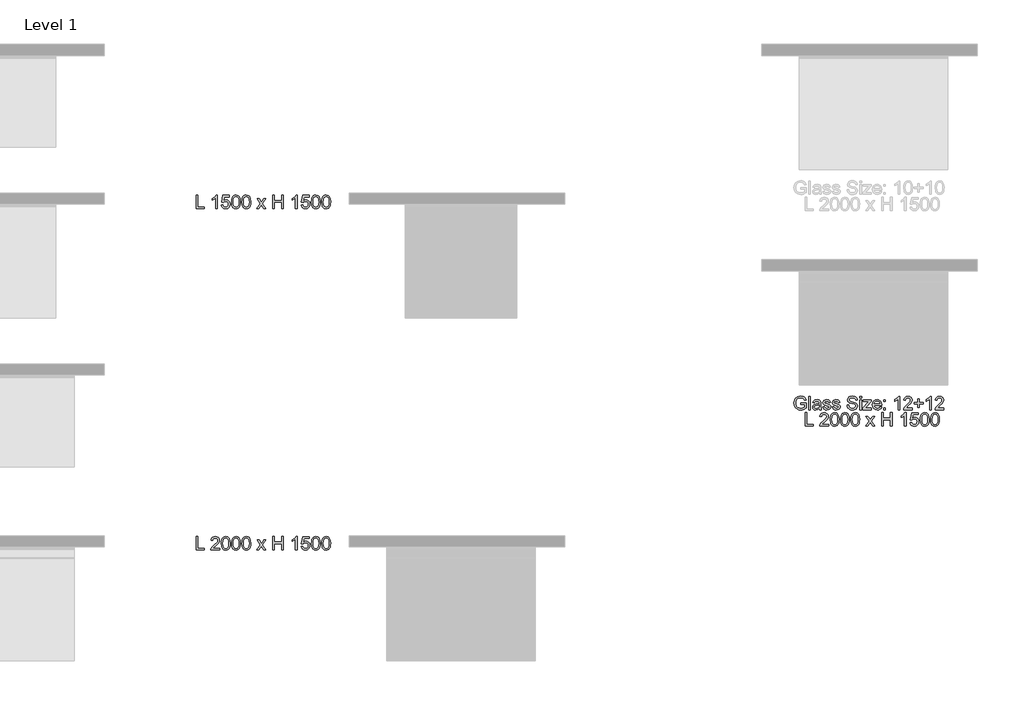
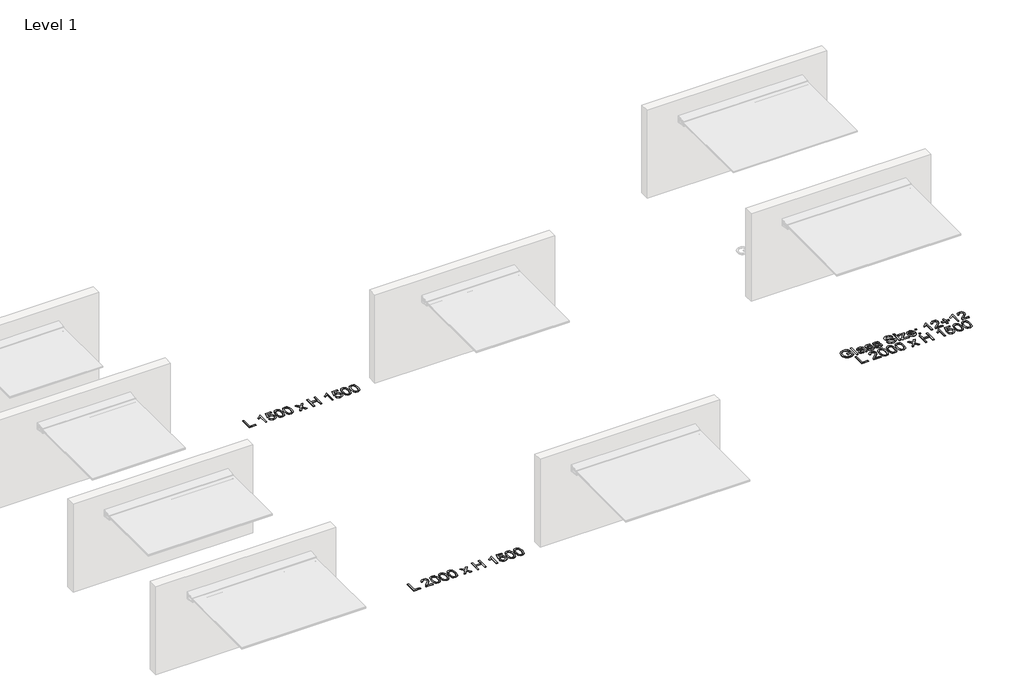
# One storey, part 2 of 7: 3 proxies.
"""IFC4 building model written with IfcOpenShell, lengths in millimetres."""

from ifc_helpers import new_model, si_unit, origin, origin_with_axes, place, context, project, spatial, polyline, outline, extrude, element, save

model = new_model("IFC4")

# Units and contexts
model_context = context("Model", 3, world=origin())
ifc_project = project(units=[si_unit("LENGTHUNIT", "METRE", prefix="MILLI")], contexts=[model_context])

# Site, building, storey
site = spatial("IfcSite", under=ifc_project)
building = spatial("IfcBuilding", under=site)
storey = spatial("IfcBuildingStorey", under=building, Name="Level 1", Elevation=0.0)

# Proxies
placement = place(None, origin())
element("IfcBuildingElementProxy", 1, Name="600mm Arial 3", ObjectType="600mm Arial 3", at=placement, inside=storey, context=model_context, shape_type="SweptSolid", body=[
    extrude(outline(polyline([(8472.1620309, -1499.2688788), (8472.1620309, -1318.4475205), (8494.7647007, -1318.4475205), (8494.7647007, -1476.666209), (8585.1753798, -1476.666209), (8585.1753798, -1499.2688788), (8472.1620309, -1499.2688788)])), origin_with_axes(), (0.0, 0.0, 1.0), 5.0),
    extrude(outline(polyline([(8757.5207369, -1499.2688788), (8734.9180672, -1499.2688788), (8734.9180672, -1358.3553594), (8713.507335, -1373.6077469), (8689.7127276, -1385.0194464), (8689.7127276, -1363.6528601), (8722.8441801, -1342.507003), (8742.9526099, -1318.4475205), (8757.5207369, -1318.4475205), (8757.5207369, -1499.2688788)])), origin_with_axes(), (0.0, 0.0, 1.0), 5.0),
    extrude(outline(polyline([(8811.2020777, -1451.2382055), (8833.8047475, -1448.4128718), (8837.9544564, -1461.9821992), (8845.194374, -1471.6998021), (8855.4913911, -1477.5436076), (8868.8123981, -1479.4915427), (8885.0139212, -1476.7820918), (8897.154027, -1468.6537392), (8904.7360749, -1456.0445838), (8907.2634243, -1439.8927248), (8904.8961036, -1424.6844831), (8897.7941417, -1413.0520544), (8885.9023562, -1405.6686628), (8869.1655648, -1403.2075322), (8849.32201, -1407.1365119), (8836.6300812, -1417.3342008), (8814.0274114, -1414.5088671), (8833.8047475, -1321.2728543), (8921.3900929, -1321.2728543), (8921.3900929, -1343.875524), (8852.081125, -1343.875524), (8842.3690403, -1393.6720309), (8858.5153811, -1383.8716546), (8875.434274, -1380.6048624), (8896.5580582, -1384.6552432), (8914.1060294, -1396.8063855), (8925.9260779, -1415.3255651), (8929.866094, -1438.4800579), (8926.3233904, -1461.0827277), (8915.6952796, -1480.4186054), (8895.3440476, -1496.6753107), (8868.7241064, -1502.0942125), (8846.5242674, -1498.6122094), (8828.8383405, -1488.1662002), (8816.7147894, -1471.9701953), (8811.2020777, -1451.2382055)])), origin_with_axes(), (0.0, 0.0, 1.0), 5.0),
    extrude(outline(polyline([(8949.6434301, -1410.3150124), (8951.3044173, -1381.3718964), (8956.2873789, -1358.2891406), (8964.5426509, -1340.7135783), (8976.0205692, -1328.2920427), (8990.8039071, -1320.9086511), (9008.9754383, -1318.4475205), (9035.3746503, -1324.2747713), (9045.8041048, -1331.3877697), (9053.6068819, -1341.0722632), (9064.2018834, -1367.8246419), (9068.3074465, -1410.3150124), (9066.6630139, -1439.0925814), (9061.7297164, -1462.1201549), (9053.5241085, -1479.7122719), (9042.0627449, -1492.1834716), (9027.2462976, -1499.6165273), (9008.9754383, -1502.0942125), (8985.4898517, -1497.7899932), (8967.6549326, -1484.8773351), (8959.7749002, -1471.2611028), (8954.1463057, -1454.2953049), (8949.6434301, -1410.3150124)]), holes=[polyline([(8972.2460999, -1410.2708665), (8974.8948502, -1445.824822), (8982.8411013, -1466.4023014), (8994.6721863, -1476.2192324), (9008.9754383, -1479.4915427), (9023.2786903, -1476.2081959), (9035.1097752, -1466.3581555), (9043.0560263, -1445.7696397), (9045.7047767, -1410.2708665), (9043.144318, -1375.5170544), (9035.4629419, -1354.7795464), (9023.6539299, -1344.4825293), (9008.7105632, -1341.0501903), (8994.5618217, -1344.0741803), (8983.1942681, -1353.1461503), (8974.9831419, -1375.1749242), (8972.2460999, -1410.2708665)])]), origin_with_axes(), (0.0, 0.0, 1.0), 5.0),
    extrude(outline(polyline([(9088.0847825, -1410.3150124), (9089.7457697, -1381.3718964), (9094.7287314, -1358.2891406), (9102.9840033, -1340.7135783), (9114.4619216, -1328.2920427), (9129.2452596, -1320.9086511), (9147.4167907, -1318.4475205), (9173.8160027, -1324.2747713), (9184.2454572, -1331.3877697), (9192.0482344, -1341.0722632), (9202.6432358, -1367.8246419), (9206.7487989, -1410.3150124), (9205.1043664, -1439.0925814), (9200.1710688, -1462.1201549), (9191.9654609, -1479.7122719), (9180.5040974, -1492.1834716), (9165.68765, -1499.6165273), (9147.4167907, -1502.0942125), (9123.9312041, -1497.7899932), (9106.096285, -1484.8773351), (9098.2162527, -1471.2611028), (9092.5876581, -1454.2953049), (9088.0847825, -1410.3150124)]), holes=[polyline([(9110.6874523, -1410.2708665), (9113.3362027, -1445.824822), (9121.2824538, -1466.4023014), (9133.1135387, -1476.2192324), (9147.4167907, -1479.4915427), (9161.7200427, -1476.2081959), (9173.5511276, -1466.3581555), (9181.4973787, -1445.7696397), (9184.1461291, -1410.2708665), (9181.5856704, -1375.5170544), (9173.9042944, -1354.7795464), (9162.0952823, -1344.4825293), (9147.1519157, -1341.0501903), (9133.0031741, -1344.0741803), (9121.6356205, -1353.1461503), (9113.4244944, -1375.1749242), (9110.6874523, -1410.2708665)])]), origin_with_axes(), (0.0, 0.0, 1.0), 5.0),
    extrude(outline(polyline([(9288.6834769, -1499.2688788), (9336.9790252, -1432.4762238), (9291.5088106, -1366.4781938), (9318.614356, -1366.4781938), (9340.5548382, -1398.307344), (9350.8408188, -1413.2727836), (9359.7582783, -1401.0002402), (9384.7448234, -1366.4781938), (9411.9386605, -1366.4781938), (9364.1728623, -1432.5203696), (9410.1728269, -1499.2688788), (9383.0231357, -1499.2688788), (9355.2995485, -1459.0961649), (9350.2669228, -1451.7238097), (9315.8773139, -1499.2688788), (9288.6834769, -1499.2688788)])), origin_with_axes(), (0.0, 0.0, 1.0), 5.0),
    extrude(outline(polyline([(9503.4088398, -1499.2688788), (9503.4088398, -1318.4475205), (9526.0115096, -1318.4475205), (9526.0115096, -1391.9061973), (9622.0728562, -1391.9061973), (9622.0728562, -1318.4475205), (9644.6755259, -1318.4475205), (9644.6755259, -1499.2688788), (9622.0728562, -1499.2688788), (9622.0728562, -1414.5088671), (9526.0115096, -1414.5088671), (9526.0115096, -1499.2688788), (9503.4088398, -1499.2688788)])), origin_with_axes(), (0.0, 0.0, 1.0), 5.0),
    extrude(outline(polyline([(9831.1475517, -1499.2688788), (9808.5448819, -1499.2688788), (9808.5448819, -1358.3553594), (9787.1341498, -1373.6077469), (9763.3395423, -1385.0194464), (9763.3395423, -1363.6528601), (9796.4709948, -1342.507003), (9816.5794247, -1318.4475205), (9831.1475517, -1318.4475205), (9831.1475517, -1499.2688788)])), origin_with_axes(), (0.0, 0.0, 1.0), 5.0),
    extrude(outline(polyline([(9884.8288924, -1451.2382055), (9907.4315622, -1448.4128718), (9911.5812711, -1461.9821992), (9918.8211888, -1471.6998021), (9929.1182058, -1477.5436076), (9942.4392128, -1479.4915427), (9958.6407359, -1476.7820918), (9970.7808418, -1468.6537392), (9978.3628897, -1456.0445838), (9980.890239, -1439.8927248), (9978.5229183, -1424.6844831), (9971.4209564, -1413.0520544), (9959.5291709, -1405.6686628), (9942.7923796, -1403.2075322), (9922.9488247, -1407.1365119), (9910.2568959, -1417.3342008), (9887.6542261, -1414.5088671), (9907.4315622, -1321.2728543), (9995.0169076, -1321.2728543), (9995.0169076, -1343.875524), (9925.7079397, -1343.875524), (9915.995855, -1393.6720309), (9932.1421958, -1383.8716546), (9949.0610888, -1380.6048624), (9970.1848729, -1384.6552432), (9987.7328441, -1396.8063855), (9999.5528926, -1415.3255651), (10003.4929088, -1438.4800579), (9999.9502051, -1461.0827277), (9989.3220943, -1480.4186054), (9968.9708623, -1496.6753107), (9942.3509212, -1502.0942125), (9920.1510822, -1498.6122094), (9902.4651552, -1488.1662002), (9890.3416041, -1471.9701953), (9884.8288924, -1451.2382055)])), origin_with_axes(), (0.0, 0.0, 1.0), 5.0),
    extrude(outline(polyline([(10023.2702448, -1410.3150124), (10024.931232, -1381.3718964), (10029.9141937, -1358.2891406), (10038.1694656, -1340.7135783), (10049.6473839, -1328.2920427), (10064.4307219, -1320.9086511), (10082.602253, -1318.4475205), (10109.001465, -1324.2747713), (10119.4309195, -1331.3877697), (10127.2336967, -1341.0722632), (10137.8286981, -1367.8246419), (10141.9342612, -1410.3150124), (10140.2898287, -1439.0925814), (10135.3565311, -1462.1201549), (10127.1509232, -1479.7122719), (10115.6895597, -1492.1834716), (10100.8731123, -1499.6165273), (10082.602253, -1502.0942125), (10059.1166664, -1497.7899932), (10041.2817473, -1484.8773351), (10033.401715, -1471.2611028), (10027.7731204, -1454.2953049), (10023.2702448, -1410.3150124)]), holes=[polyline([(10045.8729146, -1410.2708665), (10048.521665, -1445.824822), (10056.4679161, -1466.4023014), (10068.299001, -1476.2192324), (10082.602253, -1479.4915427), (10096.905505, -1476.2081959), (10108.7365899, -1466.3581555), (10116.682841, -1445.7696397), (10119.3315914, -1410.2708665), (10116.7711327, -1375.5170544), (10109.0897567, -1354.7795464), (10097.2807446, -1344.4825293), (10082.337378, -1341.0501903), (10068.1886364, -1344.0741803), (10056.8210828, -1353.1461503), (10048.6099567, -1375.1749242), (10045.8729146, -1410.2708665)])]), origin_with_axes(), (0.0, 0.0, 1.0), 5.0),
    extrude(outline(polyline([(10161.7115972, -1410.3150124), (10163.3725845, -1381.3718964), (10168.3555461, -1358.2891406), (10176.6108181, -1340.7135783), (10188.0887363, -1328.2920427), (10202.8720743, -1320.9086511), (10221.0436054, -1318.4475205), (10247.4428174, -1324.2747713), (10257.872272, -1331.3877697), (10265.6750491, -1341.0722632), (10276.2700505, -1367.8246419), (10280.3756136, -1410.3150124), (10278.7311811, -1439.0925814), (10273.7978835, -1462.1201549), (10265.5922756, -1479.7122719), (10254.1309121, -1492.1834716), (10239.3144647, -1499.6165273), (10221.0436054, -1502.0942125), (10197.5580189, -1497.7899932), (10179.7230997, -1484.8773351), (10171.8430674, -1471.2611028), (10166.2144729, -1454.2953049), (10161.7115972, -1410.3150124)]), holes=[polyline([(10184.314267, -1410.2708665), (10186.9630174, -1445.824822), (10194.9092685, -1466.4023014), (10206.7403535, -1476.2192324), (10221.0436054, -1479.4915427), (10235.3468574, -1476.2081959), (10247.1779424, -1466.3581555), (10255.1241935, -1445.7696397), (10257.7729438, -1410.2708665), (10255.2124851, -1375.5170544), (10247.5311091, -1354.7795464), (10235.722097, -1344.4825293), (10220.7787304, -1341.0501903), (10206.6299889, -1344.0741803), (10195.2624352, -1353.1461503), (10187.0513091, -1375.1749242), (10184.314267, -1410.2708665)])]), origin_with_axes(), (0.0, 0.0, 1.0), 5.0),
])
element("IfcBuildingElementProxy", 2, Name="600mm Arial 3", ObjectType="600mm Arial 3", at=placement, inside=storey, context=model_context, shape_type="SweptSolid", body=[
    extrude(outline(polyline([(8472.1620309, -6094.2687729), (8472.1620309, -5913.4474146), (8494.7647007, -5913.4474146), (8494.7647007, -6071.6661031), (8585.1753798, -6071.6661031), (8585.1753798, -6094.2687729), (8472.1620309, -6094.2687729)])), origin_with_axes(), (0.0, 0.0, 1.0), 5.0),
    extrude(outline(polyline([(8788.5994079, -6071.6661031), (8788.5994079, -6094.2687729), (8669.9353915, -6094.2687729), (8672.3634127, -6078.6852916), (8686.1148417, -6054.6920278), (8714.4343977, -6028.4914721), (8753.4372468, -5990.8350711), (8760.737865, -5977.8561943), (8763.1714044, -5965.2304842), (8760.8703025, -5953.9125947), (8753.9669969, -5944.5040126), (8743.3554407, -5938.1635664), (8729.9295873, -5936.0500844), (8715.8305098, -5938.1139024), (8704.8768234, -5944.3053564), (8697.8079709, -5954.1388421), (8695.363395, -5967.1287553), (8672.7607252, -5964.3034216), (8678.2403276, -5942.4401946), (8690.0879672, -5926.4704372), (8707.6856025, -5916.7031703), (8730.4151915, -5913.4474146), (8753.3103275, -5917.0673734), (8770.8748534, -5927.9272499), (8782.049269, -5944.1508459), (8785.7740742, -5963.8619632), (8781.7568028, -5985.2947683), (8768.4026864, -6007.4559796), (8736.0217131, -6038.424286), (8710.0198137, -6060.1661119), (8699.8221248, -6071.6661031), (8788.5994079, -6071.6661031)])), origin_with_axes(), (0.0, 0.0, 1.0), 5.0),
    extrude(outline(polyline([(8811.2020777, -6005.3149064), (8812.8630649, -5976.3717905), (8817.8460265, -5953.2890347), (8826.1012985, -5935.7134724), (8837.5792167, -5923.2919368), (8852.3625547, -5915.9085451), (8870.5340859, -5913.4474146), (8896.9332978, -5919.2746654), (8907.3627524, -5926.3876638), (8915.1655295, -5936.0721573), (8925.760531, -5962.824536), (8929.866094, -6005.3149064), (8928.2216615, -6034.0924755), (8923.288364, -6057.120049), (8915.0827561, -6074.712166), (8903.6213925, -6087.1833656), (8888.8049451, -6094.6164214), (8870.5340859, -6097.0941066), (8847.0484993, -6092.7898873), (8829.2135802, -6079.8772292), (8821.3335478, -6066.2609969), (8815.7049533, -6049.295199), (8811.2020777, -6005.3149064)]), holes=[polyline([(8833.8047475, -6005.2707606), (8836.4534978, -6040.824716), (8844.3997489, -6061.4021954), (8856.2308339, -6071.2191265), (8870.5340859, -6074.4914368), (8884.8373378, -6071.20809), (8896.6684228, -6061.3580496), (8904.6146739, -6040.7695337), (8907.2634243, -6005.2707606), (8904.7029656, -5970.5169485), (8897.0215895, -5949.7794404), (8885.2125775, -5939.4824234), (8870.2692108, -5936.0500844), (8856.1204693, -5939.0740744), (8844.7529156, -5948.1460444), (8836.5417895, -5970.1748183), (8833.8047475, -6005.2707606)])]), origin_with_axes(), (0.0, 0.0, 1.0), 5.0),
    extrude(outline(polyline([(8949.6434301, -6005.3149064), (8951.3044173, -5976.3717905), (8956.2873789, -5953.2890347), (8964.5426509, -5935.7134724), (8976.0205692, -5923.2919368), (8990.8039071, -5915.9085451), (9008.9754383, -5913.4474146), (9035.3746503, -5919.2746654), (9045.8041048, -5926.3876638), (9053.6068819, -5936.0721573), (9064.2018834, -5962.824536), (9068.3074465, -6005.3149064), (9066.6630139, -6034.0924755), (9061.7297164, -6057.120049), (9053.5241085, -6074.712166), (9042.0627449, -6087.1833656), (9027.2462976, -6094.6164214), (9008.9754383, -6097.0941066), (8985.4898517, -6092.7898873), (8967.6549326, -6079.8772292), (8959.7749002, -6066.2609969), (8954.1463057, -6049.295199), (8949.6434301, -6005.3149064)]), holes=[polyline([(8972.2460999, -6005.2707606), (8974.8948502, -6040.824716), (8982.8411013, -6061.4021954), (8994.6721863, -6071.2191265), (9008.9754383, -6074.4914368), (9023.2786903, -6071.20809), (9035.1097752, -6061.3580496), (9043.0560263, -6040.7695337), (9045.7047767, -6005.2707606), (9043.144318, -5970.5169485), (9035.4629419, -5949.7794404), (9023.6539299, -5939.4824234), (9008.7105632, -5936.0500844), (8994.5618217, -5939.0740744), (8983.1942681, -5948.1460444), (8974.9831419, -5970.1748183), (8972.2460999, -6005.2707606)])]), origin_with_axes(), (0.0, 0.0, 1.0), 5.0),
    extrude(outline(polyline([(9088.0847825, -6005.3149064), (9089.7457697, -5976.3717905), (9094.7287314, -5953.2890347), (9102.9840033, -5935.7134724), (9114.4619216, -5923.2919368), (9129.2452596, -5915.9085451), (9147.4167907, -5913.4474146), (9173.8160027, -5919.2746654), (9184.2454572, -5926.3876638), (9192.0482344, -5936.0721573), (9202.6432358, -5962.824536), (9206.7487989, -6005.3149064), (9205.1043664, -6034.0924755), (9200.1710688, -6057.120049), (9191.9654609, -6074.712166), (9180.5040974, -6087.1833656), (9165.68765, -6094.6164214), (9147.4167907, -6097.0941066), (9123.9312041, -6092.7898873), (9106.096285, -6079.8772292), (9098.2162527, -6066.2609969), (9092.5876581, -6049.295199), (9088.0847825, -6005.3149064)]), holes=[polyline([(9110.6874523, -6005.2707606), (9113.3362027, -6040.824716), (9121.2824538, -6061.4021954), (9133.1135387, -6071.2191265), (9147.4167907, -6074.4914368), (9161.7200427, -6071.20809), (9173.5511276, -6061.3580496), (9181.4973787, -6040.7695337), (9184.1461291, -6005.2707606), (9181.5856704, -5970.5169485), (9173.9042944, -5949.7794404), (9162.0952823, -5939.4824234), (9147.1519157, -5936.0500844), (9133.0031741, -5939.0740744), (9121.6356205, -5948.1460444), (9113.4244944, -5970.1748183), (9110.6874523, -6005.2707606)])]), origin_with_axes(), (0.0, 0.0, 1.0), 5.0),
    extrude(outline(polyline([(9288.6834769, -6094.2687729), (9336.9790252, -6027.4761178), (9291.5088106, -5961.4780879), (9318.614356, -5961.4780879), (9340.5548382, -5993.3072381), (9350.8408188, -6008.2726777), (9359.7582783, -5996.0001343), (9384.7448234, -5961.4780879), (9411.9386605, -5961.4780879), (9364.1728623, -6027.5202637), (9410.1728269, -6094.2687729), (9383.0231357, -6094.2687729), (9355.2995485, -6054.096059), (9350.2669228, -6046.7237038), (9315.8773139, -6094.2687729), (9288.6834769, -6094.2687729)])), origin_with_axes(), (0.0, 0.0, 1.0), 5.0),
    extrude(outline(polyline([(9503.4088398, -6094.2687729), (9503.4088398, -5913.4474146), (9526.0115096, -5913.4474146), (9526.0115096, -5986.9060914), (9622.0728562, -5986.9060914), (9622.0728562, -5913.4474146), (9644.6755259, -5913.4474146), (9644.6755259, -6094.2687729), (9622.0728562, -6094.2687729), (9622.0728562, -6009.5087612), (9526.0115096, -6009.5087612), (9526.0115096, -6094.2687729), (9503.4088398, -6094.2687729)])), origin_with_axes(), (0.0, 0.0, 1.0), 5.0),
    extrude(outline(polyline([(9831.1475517, -6094.2687729), (9808.5448819, -6094.2687729), (9808.5448819, -5953.3552534), (9787.1341498, -5968.607641), (9763.3395423, -5980.0193404), (9763.3395423, -5958.6527542), (9796.4709948, -5937.5068971), (9816.5794247, -5913.4474146), (9831.1475517, -5913.4474146), (9831.1475517, -6094.2687729)])), origin_with_axes(), (0.0, 0.0, 1.0), 5.0),
    extrude(outline(polyline([(9884.8288924, -6046.2380996), (9907.4315622, -6043.4127659), (9911.5812711, -6056.9820933), (9918.8211888, -6066.6996962), (9929.1182058, -6072.5435016), (9942.4392128, -6074.4914368), (9958.6407359, -6071.7819859), (9970.7808418, -6063.6536332), (9978.3628897, -6051.0444778), (9980.890239, -6034.8926188), (9978.5229183, -6019.6843772), (9971.4209564, -6008.0519485), (9959.5291709, -6000.6685568), (9942.7923796, -5998.2074263), (9922.9488247, -6002.136406), (9910.2568959, -6012.3340949), (9887.6542261, -6009.5087612), (9907.4315622, -5916.2727483), (9995.0169076, -5916.2727483), (9995.0169076, -5938.8754181), (9925.7079397, -5938.8754181), (9915.995855, -5988.671925), (9932.1421958, -5978.8715486), (9949.0610888, -5975.6047565), (9970.1848729, -5979.6551373), (9987.7328441, -5991.8062796), (9999.5528926, -6010.3254592), (10003.4929088, -6033.479952), (9999.9502051, -6056.0826218), (9989.3220943, -6075.4184994), (9968.9708623, -6091.6752048), (9942.3509212, -6097.0941066), (9920.1510822, -6093.6121035), (9902.4651552, -6083.1660943), (9890.3416041, -6066.9700894), (9884.8288924, -6046.2380996)])), origin_with_axes(), (0.0, 0.0, 1.0), 5.0),
    extrude(outline(polyline([(10023.2702448, -6005.3149064), (10024.931232, -5976.3717905), (10029.9141937, -5953.2890347), (10038.1694656, -5935.7134724), (10049.6473839, -5923.2919368), (10064.4307219, -5915.9085451), (10082.602253, -5913.4474146), (10109.001465, -5919.2746654), (10119.4309195, -5926.3876638), (10127.2336967, -5936.0721573), (10137.8286981, -5962.824536), (10141.9342612, -6005.3149064), (10140.2898287, -6034.0924755), (10135.3565311, -6057.120049), (10127.1509232, -6074.712166), (10115.6895597, -6087.1833656), (10100.8731123, -6094.6164214), (10082.602253, -6097.0941066), (10059.1166664, -6092.7898873), (10041.2817473, -6079.8772292), (10033.401715, -6066.2609969), (10027.7731204, -6049.295199), (10023.2702448, -6005.3149064)]), holes=[polyline([(10045.8729146, -6005.2707606), (10048.521665, -6040.824716), (10056.4679161, -6061.4021954), (10068.299001, -6071.2191265), (10082.602253, -6074.4914368), (10096.905505, -6071.20809), (10108.7365899, -6061.3580496), (10116.682841, -6040.7695337), (10119.3315914, -6005.2707606), (10116.7711327, -5970.5169485), (10109.0897567, -5949.7794404), (10097.2807446, -5939.4824234), (10082.337378, -5936.0500844), (10068.1886364, -5939.0740744), (10056.8210828, -5948.1460444), (10048.6099567, -5970.1748183), (10045.8729146, -6005.2707606)])]), origin_with_axes(), (0.0, 0.0, 1.0), 5.0),
    extrude(outline(polyline([(10161.7115972, -6005.3149064), (10163.3725845, -5976.3717905), (10168.3555461, -5953.2890347), (10176.6108181, -5935.7134724), (10188.0887363, -5923.2919368), (10202.8720743, -5915.9085451), (10221.0436054, -5913.4474146), (10247.4428174, -5919.2746654), (10257.872272, -5926.3876638), (10265.6750491, -5936.0721573), (10276.2700505, -5962.824536), (10280.3756136, -6005.3149064), (10278.7311811, -6034.0924755), (10273.7978835, -6057.120049), (10265.5922756, -6074.712166), (10254.1309121, -6087.1833656), (10239.3144647, -6094.6164214), (10221.0436054, -6097.0941066), (10197.5580189, -6092.7898873), (10179.7230997, -6079.8772292), (10171.8430674, -6066.2609969), (10166.2144729, -6049.295199), (10161.7115972, -6005.3149064)]), holes=[polyline([(10184.314267, -6005.2707606), (10186.9630174, -6040.824716), (10194.9092685, -6061.4021954), (10206.7403535, -6071.2191265), (10221.0436054, -6074.4914368), (10235.3468574, -6071.20809), (10247.1779424, -6061.3580496), (10255.1241935, -6040.7695337), (10257.7729438, -6005.2707606), (10255.2124851, -5970.5169485), (10247.5311091, -5949.7794404), (10235.722097, -5939.4824234), (10220.7787304, -5936.0500844), (10206.6299889, -5939.0740744), (10195.2624352, -5948.1460444), (10187.0513091, -5970.1748183), (10184.314267, -6005.2707606)])]), origin_with_axes(), (0.0, 0.0, 1.0), 5.0),
])
element("IfcBuildingElementProxy", 3, Name="600mm Arial 3", ObjectType="600mm Arial 3", at=placement, inside=storey, context=model_context, shape_type="SweptSolid", body=[
    extrude(outline(polyline([(16606.0715057, -4137.1901227), (16606.0715057, -4114.5874529), (16679.5301825, -4114.5874529), (16679.5301825, -4182.174733), (16661.6787087, -4194.5907504), (16643.2643754, -4203.4971735), (16624.3313285, -4208.860893), (16604.9237139, -4210.6487995), (16579.5674473, -4207.8069111), (16556.6502384, -4199.2812458), (16537.6123452, -4185.3697882), (16523.8940256, -4166.3705225), (16515.600126, -4143.5802329), (16512.8354928, -4118.2957034), (16515.5890896, -4092.8290723), (16523.8498798, -4069.1393112), (16537.2757332, -4049.2681652), (16555.5245195, -4035.2573794), (16577.7519497, -4026.9469252), (16603.1137344, -4024.1767737), (16621.7322422, -4025.7825787), (16638.4745518, -4030.5999934), (16652.5736293, -4038.2813694), (16663.2624406, -4048.4790584), (16671.1700641, -4061.6841826), (16676.9255779, -4078.3878646), (16656.0887417, -4084.2592612), (16645.7806882, -4063.3562062), (16628.1664983, -4051.3043921), (16602.7605677, -4046.7794435), (16573.82297, -4051.6575588), (16554.1339256, -4064.4598522), (16542.5014969, -4081.8753859), (16537.2039962, -4098.9377528), (16535.4381626, -4117.3686408), (16537.5626811, -4138.9835474), (16543.9362367, -4156.7688025), (16554.3656913, -4170.5974866), (16568.6579068, -4180.3426807), (16585.3836617, -4186.1202674), (16603.1137344, -4188.0461297), (16634.037895, -4182.2409518), (16656.9275127, -4169.8580438), (16656.9275127, -4137.1901227), (16606.0715057, -4137.1901227)])), origin_with_axes(), (0.0, 0.0, 1.0), 5.0),
    extrude(outline(polyline([(16713.4341871, -4207.8234657), (16713.4341871, -4027.0021075), (16736.0368569, -4027.0021075), (16736.0368569, -4207.8234657), (16713.4341871, -4207.8234657)])), origin_with_axes(), (0.0, 0.0, 1.0), 5.0),
    extrude(outline(polyline([(16854.7008733, -4190.8714634), (16832.782464, -4206.1900697), (16808.5684711, -4210.6487995), (16789.6795701, -4207.9669397), (16775.7460395, -4199.9213605), (16767.1541555, -4187.7039994), (16764.2901942, -4172.5067942), (16768.6164864, -4154.6277292), (16779.9840401, -4141.6488524), (16795.8103235, -4134.2323514), (16815.3669304, -4130.8331218), (16854.5684358, -4123.0634541), (16854.7008733, -4118.0308284), (16853.1447325, -4107.9435041), (16848.4763099, -4101.3437011), (16838.0358189, -4096.4435129), (16823.4897648, -4094.8101168), (16800.62222, -4099.158482), (16794.2100368, -4105.1899073), (16789.7181977, -4114.5874529), (16767.1155279, -4111.7621192), (16776.8938313, -4089.6891995), (16785.2263585, -4082.261662), (16796.5828757, -4076.7544685), (16826.4033902, -4072.207447), (16853.7958836, -4076.2247184), (16869.2690003, -4086.3120427), (16876.1998971, -4101.6527219), (16877.3035431, -4121.430058), (16877.3035431, -4149.5509577), (16878.4513349, -4188.8186819), (16882.9542105, -4207.8234657), (16860.3515407, -4207.8234657), (16854.7008733, -4190.8714634)]), holes=[polyline([(16854.7008733, -4145.6661238), (16818.2364099, -4152.5970206), (16798.7901677, -4156.2611253), (16789.9830727, -4162.2208136), (16786.8928639, -4170.917544), (16788.5759241, -4177.638748), (16793.6251045, -4183.1459415), (16813.3803676, -4188.0461297), (16836.2479124, -4182.6382644), (16850.9926228, -4169.549023), (16854.5684358, -4152.0672706), (16854.7008733, -4145.6661238)])]), origin_with_axes(), (0.0, 0.0, 1.0), 5.0),
    extrude(outline(polyline([(16899.9062129, -4168.2687936), (16922.5088826, -4165.4434599), (16926.0736592, -4175.1113987), (16932.9714466, -4182.2188789), (16943.2463907, -4186.589317), (16956.9426374, -4188.0461297), (16970.4733372, -4186.710718), (16979.9867656, -4182.7044831), (16985.6153601, -4176.8993052), (16987.4915583, -4170.1670647), (16985.6043236, -4164.4060327), (16979.9426197, -4160.0135216), (16956.6777624, -4153.5682291), (16922.6413202, -4142.5096963), (16907.7862452, -4129.5970383), (16902.7315466, -4111.3648066), (16906.7929638, -4094.5231689), (16917.8735695, -4081.6546567), (16932.2430402, -4074.966562), (16951.6892825, -4072.207447), (16979.1921405, -4076.6441039), (16996.6738929, -4088.6517722), (17004.4435606, -4108.9367854), (16981.8408908, -4111.7621192), (16978.987966, -4104.6491208), (16973.3428167, -4099.2909195), (16953.4551161, -4094.8101168), (16931.8236548, -4099.0922632), (16925.3342164, -4109.069223), (16928.0271126, -4115.646953), (16936.4589679, -4120.6354329), (16955.9272831, -4125.4473294), (16989.1028814, -4136.0864767), (17004.5097794, -4148.1382908), (17008.6981159, -4157.0005681), (17010.0942281, -4167.7831894), (17008.4553138, -4178.9300138), (17003.5385709, -4189.4146507), (16995.5316193, -4198.4148837), (16984.6220787, -4205.1084966), (16956.6336165, -4210.6487995), (16933.8433269, -4207.9779762), (16917.2113819, -4199.9655063), (16906.1087033, -4186.6996816), (16899.9062129, -4168.2687936)])), origin_with_axes(), (0.0, 0.0, 1.0), 5.0),
    extrude(outline(polyline([(17027.0462304, -4168.2687936), (17049.6489002, -4165.4434599), (17053.2136767, -4175.1113987), (17060.1114641, -4182.2188789), (17070.3864082, -4186.589317), (17084.0826549, -4188.0461297), (17097.6133547, -4186.710718), (17107.1267831, -4182.7044831), (17112.7553776, -4176.8993052), (17114.6315758, -4170.1670647), (17112.7443412, -4164.4060327), (17107.0826373, -4160.0135216), (17083.8177799, -4153.5682291), (17049.7813377, -4142.5096963), (17034.9262627, -4129.5970383), (17029.8715641, -4111.3648066), (17033.9329813, -4094.5231689), (17045.013587, -4081.6546567), (17059.3830578, -4074.966562), (17078.8293, -4072.207447), (17106.332158, -4076.6441039), (17123.8139104, -4088.6517722), (17131.5835781, -4108.9367854), (17108.9809084, -4111.7621192), (17106.1279835, -4104.6491208), (17100.4828343, -4099.2909195), (17080.5951336, -4094.8101168), (17058.9636723, -4099.0922632), (17052.4742339, -4109.069223), (17055.1671301, -4115.646953), (17063.5989854, -4120.6354329), (17083.0673006, -4125.4473294), (17116.2428989, -4136.0864767), (17131.6497969, -4148.1382908), (17135.8381334, -4157.0005681), (17137.2342456, -4167.7831894), (17135.5953313, -4178.9300138), (17130.6785884, -4189.4146507), (17122.6716368, -4198.4148837), (17111.7620962, -4205.1084966), (17083.7736341, -4210.6487995), (17060.9833445, -4207.9779762), (17044.3513995, -4199.9655063), (17033.2487208, -4186.6996816), (17027.0462304, -4168.2687936)])), origin_with_axes(), (0.0, 0.0, 1.0), 5.0),
    extrude(outline(polyline([(17227.6449247, -4145.6661238), (17250.2475945, -4145.6661238), (17257.531658, -4168.2908665), (17264.8488309, -4176.2922999), (17275.3224313, -4182.5941185), (17302.4279767, -4188.0461297), (17326.0460008, -4183.9184937), (17341.2983883, -4172.573013), (17346.3089411, -4157.4089171), (17342.5565447, -4143.3043214), (17327.1937926, -4133.0404138), (17294.2830693, -4124.4099022), (17258.8560332, -4113.2630777), (17247.6043624, -4105.6589569), (17239.6305201, -4096.4435129), (17234.8793242, -4085.815402), (17233.2955922, -4073.9732806), (17235.2545638, -4060.735047), (17241.1314787, -4048.3907667), (17250.7718264, -4037.9282027), (17264.0210964, -4030.3351183), (17279.9246351, -4025.7163599), (17297.5277885, -4024.1767737), (17316.5987912, -4025.7880969), (17333.2859185, -4030.6220663), (17346.9932016, -4038.5793539), (17357.1246717, -4049.5606314), (17363.5368549, -4062.8816385), (17366.0862772, -4077.8581145), (17343.4836074, -4077.8581145), (17339.3338985, -4064.3715605), (17330.6813139, -4054.6374029), (17317.1616506, -4048.7439334), (17298.4107053, -4046.7794435), (17279.2183016, -4048.7218605), (17266.051805, -4054.5491113), (17258.4366477, -4063.1244406), (17255.898262, -4073.311093), (17257.6972049, -4081.9967869), (17263.0940338, -4088.982866), (17275.8521814, -4095.2295023), (17299.9999555, -4101.6085761), (17339.9960861, -4112.9540568), (17352.8811529, -4121.1541465), (17361.8703495, -4131.2745802), (17367.1512955, -4143.2049933), (17368.9116109, -4156.8350212), (17366.8864205, -4170.7685518), (17360.8108493, -4183.8743479), (17350.9332178, -4195.1536098), (17337.5018461, -4203.6075381), (17321.3499871, -4208.8884841), (17303.3108935, -4210.6487995), (17281.1662368, -4208.7505284), (17262.9395233, -4203.0557151), (17248.4210604, -4193.5422867), (17237.4011552, -4180.1881703), (17230.3267845, -4163.9204284), (17227.6449247, -4145.6661238)])), origin_with_axes(), (0.0, 0.0, 1.0), 5.0),
    extrude(outline(polyline([(17399.9902818, -4049.6047773), (17399.9902818, -4027.0021075), (17422.5929516, -4027.0021075), (17422.5929516, -4049.6047773), (17399.9902818, -4049.6047773)])), origin_with_axes(), (0.0, 0.0, 1.0), 5.0),
    extrude(outline(polyline([(17399.9902818, -4207.8234657), (17399.9902818, -4075.0327808), (17422.5929516, -4075.0327808), (17422.5929516, -4207.8234657), (17399.9902818, -4207.8234657)])), origin_with_axes(), (0.0, 0.0, 1.0), 5.0),
    extrude(outline(polyline([(17442.3702877, -4207.8234657), (17442.3702877, -4186.5451711), (17520.3759859, -4097.6354505), (17497.2877119, -4097.6354505), (17448.0209551, -4097.6354505), (17448.0209551, -4075.0327808), (17552.5583029, -4075.0327808), (17552.5583029, -4094.2362209), (17483.3817725, -4173.124836), (17472.786771, -4185.220796), (17498.921108, -4185.220796), (17555.3836366, -4185.220796), (17555.3836366, -4207.8234657), (17442.3702877, -4207.8234657)])), origin_with_axes(), (0.0, 0.0, 1.0), 5.0),
    extrude(outline(polyline([(17670.9574442, -4168.2687936), (17693.1186556, -4171.0941273), (17685.1337769, -4187.7922911), (17672.392184, -4200.2745272), (17655.1808248, -4208.0552314), (17633.7866474, -4210.6487995), (17607.2660344, -4206.173515), (17586.8596201, -4192.7476616), (17573.8476339, -4171.2431196), (17569.5103052, -4142.5317692), (17573.8917798, -4112.8547287), (17587.0362035, -4090.6604079), (17607.1667062, -4076.8206873), (17632.5064181, -4072.207447), (17657.057023, -4076.8096508), (17676.6743304, -4090.6162621), (17689.5373244, -4112.766437), (17693.824989, -4142.3993317), (17693.6925515, -4148.4914576), (17592.112975, -4148.4914576), (17596.0254, -4165.4103505), (17605.1139247, -4177.8484408), (17618.2307572, -4185.4967075), (17634.2281058, -4188.0461297), (17656.3893172, -4183.3225249), (17664.6225162, -4177.1972896), (17670.9574442, -4168.2687936)]), holes=[polyline([(17592.112975, -4125.8887878), (17671.2223192, -4125.8887878), (17668.1652199, -4113.9473382), (17662.1724222, -4105.4051183), (17648.9948891, -4097.4588672), (17632.4181264, -4094.8101168), (17617.1822936, -4096.9235989), (17604.5841746, -4103.2640451), (17595.8267437, -4113.1471949), (17592.112975, -4125.8887878)])]), origin_with_axes(), (0.0, 0.0, 1.0), 5.0),
    extrude(outline(polyline([(17722.0783262, -4097.6354505), (17722.0783262, -4075.0327808), (17744.680996, -4075.0327808), (17744.680996, -4097.6354505), (17722.0783262, -4097.6354505)])), origin_with_axes(), (0.0, 0.0, 1.0), 5.0),
    extrude(outline(polyline([(17722.0783262, -4207.8234657), (17722.0783262, -4185.220796), (17744.680996, -4185.220796), (17744.680996, -4207.8234657), (17722.0783262, -4207.8234657)])), origin_with_axes(), (0.0, 0.0, 1.0), 5.0),
    extrude(outline(polyline([(17936.8036892, -4207.8234657), (17914.2010194, -4207.8234657), (17914.2010194, -4066.9099463), (17892.7902873, -4082.1623338), (17868.9956798, -4093.5740333), (17868.9956798, -4072.207447), (17902.1271323, -4051.06159), (17922.2355622, -4027.0021075), (17936.8036892, -4027.0021075), (17936.8036892, -4207.8234657)])), origin_with_axes(), (0.0, 0.0, 1.0), 5.0),
    extrude(outline(polyline([(18106.3237126, -4185.220796), (18106.3237126, -4207.8234657), (17987.6596962, -4207.8234657), (17990.0877174, -4192.2399844), (18003.8391464, -4168.2467207), (18032.1587023, -4142.046165), (18071.1615515, -4104.389764), (18078.4621697, -4091.4108872), (18080.8957091, -4078.7851771), (18078.5946072, -4067.4672875), (18071.6913015, -4058.0587055), (18061.0797454, -4051.7182593), (18047.653892, -4049.6047773), (18033.5548145, -4051.6685952), (18022.6011281, -4057.8600492), (18015.5322756, -4067.693535), (18013.0876997, -4080.6834482), (17990.4850299, -4077.8581145), (17995.9646322, -4055.9948875), (18007.8122719, -4040.0251301), (18025.4099071, -4030.2578631), (18048.1394962, -4027.0021075), (18071.0346322, -4030.6220663), (18088.599158, -4041.4819428), (18099.7735736, -4057.7055388), (18103.4983788, -4077.4166561), (18099.4811075, -4098.8494611), (18086.126991, -4121.0106725), (18053.7460178, -4151.9789789), (18027.7441184, -4173.7208048), (18017.5464295, -4185.220796), (18106.3237126, -4185.220796)])), origin_with_axes(), (0.0, 0.0, 1.0), 5.0),
    extrude(outline(polyline([(18179.7823894, -4179.5701285), (18179.7823894, -4131.5394552), (18131.7517161, -4131.5394552), (18131.7517161, -4108.9367854), (18179.7823894, -4108.9367854), (18179.7823894, -4060.9061121), (18202.3850591, -4060.9061121), (18202.3850591, -4108.9367854), (18250.4157324, -4108.9367854), (18250.4157324, -4131.5394552), (18202.3850591, -4131.5394552), (18202.3850591, -4179.5701285), (18179.7823894, -4179.5701285)])), origin_with_axes(), (0.0, 0.0, 1.0), 5.0),
    extrude(outline(polyline([(18360.6037476, -4207.8234657), (18338.0010778, -4207.8234657), (18338.0010778, -4066.9099463), (18316.5903457, -4082.1623338), (18292.7957383, -4093.5740333), (18292.7957383, -4072.207447), (18325.9271908, -4051.06159), (18346.0356206, -4027.0021075), (18360.6037476, -4027.0021075), (18360.6037476, -4207.8234657)])), origin_with_axes(), (0.0, 0.0, 1.0), 5.0),
    extrude(outline(polyline([(18530.123771, -4185.220796), (18530.123771, -4207.8234657), (18411.4597546, -4207.8234657), (18413.8877758, -4192.2399844), (18427.6392048, -4168.2467207), (18455.9587608, -4142.046165), (18494.9616099, -4104.389764), (18502.2622281, -4091.4108872), (18504.6957675, -4078.7851771), (18502.3946656, -4067.4672875), (18495.49136, -4058.0587055), (18484.8798038, -4051.7182593), (18471.4539504, -4049.6047773), (18457.354873, -4051.6685952), (18446.4011865, -4057.8600492), (18439.332334, -4067.693535), (18436.8877582, -4080.6834482), (18414.2850884, -4077.8581145), (18419.7646907, -4055.9948875), (18431.6123303, -4040.0251301), (18449.2099656, -4030.2578631), (18471.9395547, -4027.0021075), (18494.8346906, -4030.6220663), (18512.3992165, -4041.4819428), (18523.5736321, -4057.7055388), (18527.2984373, -4077.4166561), (18523.2811659, -4098.8494611), (18509.9270495, -4121.0106725), (18477.5460763, -4151.9789789), (18451.5441768, -4173.7208048), (18441.3464879, -4185.220796), (18530.123771, -4185.220796)])), origin_with_axes(), (0.0, 0.0, 1.0), 5.0),
    extrude(outline(polyline([(16662.5781801, -4427.3781379), (16662.5781801, -4246.5567796), (16685.1808499, -4246.5567796), (16685.1808499, -4404.7754681), (16775.5915291, -4404.7754681), (16775.5915291, -4427.3781379), (16662.5781801, -4427.3781379)])), origin_with_axes(), (0.0, 0.0, 1.0), 5.0),
    extrude(outline(polyline([(16979.0155571, -4404.7754681), (16979.0155571, -4427.3781379), (16860.3515407, -4427.3781379), (16862.7795619, -4411.7946565), (16876.5309909, -4387.8013928), (16904.8505469, -4361.6008371), (16943.853396, -4323.9444361), (16951.1540142, -4310.9655593), (16953.5875536, -4298.3398492), (16951.2864517, -4287.0219597), (16944.3831461, -4277.6133776), (16933.7715899, -4271.2729314), (16920.3457365, -4269.1594494), (16906.2466591, -4271.2232674), (16895.2929726, -4277.4147213), (16888.2241201, -4287.2482071), (16885.7795442, -4300.2381203), (16863.1768745, -4297.4127866), (16868.6564768, -4275.5495596), (16880.5041164, -4259.5798022), (16898.1017517, -4249.8125353), (16920.8313407, -4246.5567796), (16943.7264767, -4250.1767384), (16961.2910026, -4261.0366149), (16972.4654182, -4277.2602109), (16976.1902234, -4296.9713282), (16972.172952, -4318.4041333), (16958.8188356, -4340.5653446), (16926.4378624, -4371.533651), (16900.4359629, -4393.2754769), (16890.238274, -4404.7754681), (16979.0155571, -4404.7754681)])), origin_with_axes(), (0.0, 0.0, 1.0), 5.0),
    extrude(outline(polyline([(17001.6182269, -4338.4242714), (17003.2792141, -4309.4811555), (17008.2621757, -4286.3983997), (17016.5174477, -4268.8228374), (17027.9953659, -4256.4013018), (17042.7787039, -4249.0179101), (17060.9502351, -4246.5567796), (17087.349447, -4252.3840304), (17097.7789016, -4259.4970288), (17105.5816787, -4269.1815223), (17116.1766802, -4295.933901), (17120.2822433, -4338.4242714), (17118.6378107, -4367.2018405), (17113.7045132, -4390.229414), (17105.4989053, -4407.821531), (17094.0375417, -4420.2927306), (17079.2210944, -4427.7257863), (17060.9502351, -4430.2034716), (17037.4646485, -4425.8992522), (17019.6297294, -4412.9865942), (17011.749697, -4399.3703619), (17006.1211025, -4382.404564), (17001.6182269, -4338.4242714)]), holes=[polyline([(17024.2208967, -4338.3801256), (17026.869647, -4373.934081), (17034.8158981, -4394.5115604), (17046.6469831, -4404.3284915), (17060.9502351, -4407.6008018), (17075.253487, -4404.317455), (17087.084572, -4394.4674146), (17095.0308231, -4373.8788987), (17097.6795735, -4338.3801256), (17095.1191148, -4303.6263135), (17087.4377387, -4282.8888054), (17075.6287267, -4272.5917884), (17060.68536, -4269.1594494), (17046.5366185, -4272.1834394), (17035.1690649, -4281.2554094), (17026.9579387, -4303.2841832), (17024.2208967, -4338.3801256)])]), origin_with_axes(), (0.0, 0.0, 1.0), 5.0),
    extrude(outline(polyline([(17140.0595793, -4338.4242714), (17141.7205665, -4309.4811555), (17146.7035281, -4286.3983997), (17154.9588001, -4268.8228374), (17166.4367184, -4256.4013018), (17181.2200563, -4249.0179101), (17199.3915875, -4246.5567796), (17225.7907995, -4252.3840304), (17236.220254, -4259.4970288), (17244.0230312, -4269.1815223), (17254.6180326, -4295.933901), (17258.7235957, -4338.4242714), (17257.0791632, -4367.2018405), (17252.1458656, -4390.229414), (17243.9402577, -4407.821531), (17232.4788941, -4420.2927306), (17217.6624468, -4427.7257863), (17199.3915875, -4430.2034716), (17175.9060009, -4425.8992522), (17158.0710818, -4412.9865942), (17150.1910495, -4399.3703619), (17144.5624549, -4382.404564), (17140.0595793, -4338.4242714)]), holes=[polyline([(17162.6622491, -4338.3801256), (17165.3109995, -4373.934081), (17173.2572506, -4394.5115604), (17185.0883355, -4404.3284915), (17199.3915875, -4407.6008018), (17213.6948395, -4404.317455), (17225.5259244, -4394.4674146), (17233.4721755, -4373.8788987), (17236.1209259, -4338.3801256), (17233.5604672, -4303.6263135), (17225.8790912, -4282.8888054), (17214.0700791, -4272.5917884), (17199.1267125, -4269.1594494), (17184.9779709, -4272.1834394), (17173.6104173, -4281.2554094), (17165.3992911, -4303.2841832), (17162.6622491, -4338.3801256)])]), origin_with_axes(), (0.0, 0.0, 1.0), 5.0),
    extrude(outline(polyline([(17278.5009317, -4338.4242714), (17280.1619189, -4309.4811555), (17285.1448806, -4286.3983997), (17293.4001525, -4268.8228374), (17304.8780708, -4256.4013018), (17319.6614088, -4249.0179101), (17337.8329399, -4246.5567796), (17364.2321519, -4252.3840304), (17374.6616065, -4259.4970288), (17382.4643836, -4269.1815223), (17393.059385, -4295.933901), (17397.1649481, -4338.4242714), (17395.5205156, -4367.2018405), (17390.587218, -4390.229414), (17382.3816101, -4407.821531), (17370.9202466, -4420.2927306), (17356.1037992, -4427.7257863), (17337.8329399, -4430.2034716), (17314.3473534, -4425.8992522), (17296.5124342, -4412.9865942), (17288.6324019, -4399.3703619), (17283.0038074, -4382.404564), (17278.5009317, -4338.4242714)]), holes=[polyline([(17301.1036015, -4338.3801256), (17303.7523519, -4373.934081), (17311.698603, -4394.5115604), (17323.529688, -4404.3284915), (17337.8329399, -4407.6008018), (17352.1361919, -4404.317455), (17363.9672769, -4394.4674146), (17371.913528, -4373.8788987), (17374.5622783, -4338.3801256), (17372.0018196, -4303.6263135), (17364.3204436, -4282.8888054), (17352.5114315, -4272.5917884), (17337.5680649, -4269.1594494), (17323.4193234, -4272.1834394), (17312.0517697, -4281.2554094), (17303.8406436, -4303.2841832), (17301.1036015, -4338.3801256)])]), origin_with_axes(), (0.0, 0.0, 1.0), 5.0),
    extrude(outline(polyline([(17479.0996261, -4427.3781379), (17527.3951744, -4360.5854828), (17481.9249598, -4294.5874529), (17509.0305052, -4294.5874529), (17530.9709874, -4326.4166031), (17541.256968, -4341.3820427), (17550.1744275, -4329.1094993), (17575.1609727, -4294.5874529), (17602.3548097, -4294.5874529), (17554.5890115, -4360.6296287), (17600.5889762, -4427.3781379), (17573.4392849, -4427.3781379), (17545.7156978, -4387.205424), (17540.6830721, -4379.8330688), (17506.2934632, -4427.3781379), (17479.0996261, -4427.3781379)])), origin_with_axes(), (0.0, 0.0, 1.0), 5.0),
    extrude(outline(polyline([(17693.824989, -4427.3781379), (17693.824989, -4246.5567796), (17716.4276588, -4246.5567796), (17716.4276588, -4320.0154564), (17812.4890054, -4320.0154564), (17812.4890054, -4246.5567796), (17835.0916752, -4246.5567796), (17835.0916752, -4427.3781379), (17812.4890054, -4427.3781379), (17812.4890054, -4342.6181262), (17716.4276588, -4342.6181262), (17716.4276588, -4427.3781379), (17693.824989, -4427.3781379)])), origin_with_axes(), (0.0, 0.0, 1.0), 5.0),
    extrude(outline(polyline([(18021.5637009, -4427.3781379), (17998.9610311, -4427.3781379), (17998.9610311, -4286.4646184), (17977.550299, -4301.717006), (17953.7556915, -4313.1287054), (17953.7556915, -4291.7621192), (17986.887144, -4270.6162621), (18006.9955739, -4246.5567796), (18021.5637009, -4246.5567796), (18021.5637009, -4427.3781379)])), origin_with_axes(), (0.0, 0.0, 1.0), 5.0),
    extrude(outline(polyline([(18075.2450416, -4379.3474646), (18097.8477114, -4376.5221308), (18101.9974203, -4390.0914582), (18109.237338, -4399.8090611), (18119.534355, -4405.6528666), (18132.8553621, -4407.6008018), (18149.0568851, -4404.8913509), (18161.196991, -4396.7629982), (18168.7790389, -4384.1538428), (18171.3063882, -4368.0019838), (18168.9390676, -4352.7937422), (18161.8371056, -4341.1613135), (18149.9453201, -4333.7779218), (18133.2085288, -4331.3167913), (18113.364974, -4335.245771), (18100.6730451, -4345.4434599), (18078.0703753, -4342.6181262), (18097.8477114, -4249.3821133), (18185.4330568, -4249.3821133), (18185.4330568, -4271.9847831), (18116.1240889, -4271.9847831), (18106.4120042, -4321.78129), (18122.558345, -4311.9809136), (18139.477238, -4308.7141215), (18160.6010221, -4312.7645023), (18178.1489933, -4324.9156446), (18189.9690418, -4343.4348242), (18193.909058, -4366.589317), (18190.3663544, -4389.1919868), (18179.7382435, -4408.5278644), (18159.3870116, -4424.7845698), (18132.7670704, -4430.2034716), (18110.5672314, -4426.7214685), (18092.8813045, -4416.2754592), (18080.7577533, -4400.0794544), (18075.2450416, -4379.3474646)])), origin_with_axes(), (0.0, 0.0, 1.0), 5.0),
    extrude(outline(polyline([(18213.686394, -4338.4242714), (18215.3473812, -4309.4811555), (18220.3303429, -4286.3983997), (18228.5856148, -4268.8228374), (18240.0635331, -4256.4013018), (18254.8468711, -4249.0179101), (18273.0184022, -4246.5567796), (18299.4176142, -4252.3840304), (18309.8470688, -4259.4970288), (18317.6498459, -4269.1815223), (18328.2448473, -4295.933901), (18332.3504104, -4338.4242714), (18330.7059779, -4367.2018405), (18325.7726803, -4390.229414), (18317.5670724, -4407.821531), (18306.1057089, -4420.2927306), (18291.2892615, -4427.7257863), (18273.0184022, -4430.2034716), (18249.5328156, -4425.8992522), (18231.6978965, -4412.9865942), (18223.8178642, -4399.3703619), (18218.1892697, -4382.404564), (18213.686394, -4338.4242714)]), holes=[polyline([(18236.2890638, -4338.3801256), (18238.9378142, -4373.934081), (18246.8840653, -4394.5115604), (18258.7151502, -4404.3284915), (18273.0184022, -4407.6008018), (18287.3216542, -4404.317455), (18299.1527392, -4394.4674146), (18307.0989903, -4373.8788987), (18309.7477406, -4338.3801256), (18307.1872819, -4303.6263135), (18299.5059059, -4282.8888054), (18287.6968938, -4272.5917884), (18272.7535272, -4269.1594494), (18258.6047857, -4272.1834394), (18247.237232, -4281.2554094), (18239.0261059, -4303.2841832), (18236.2890638, -4338.3801256)])]), origin_with_axes(), (0.0, 0.0, 1.0), 5.0),
    extrude(outline(polyline([(18352.1277465, -4338.4242714), (18353.7887337, -4309.4811555), (18358.7716953, -4286.3983997), (18367.0269673, -4268.8228374), (18378.5048855, -4256.4013018), (18393.2882235, -4249.0179101), (18411.4597546, -4246.5567796), (18437.8589666, -4252.3840304), (18448.2884212, -4259.4970288), (18456.0911983, -4269.1815223), (18466.6861998, -4295.933901), (18470.7917628, -4338.4242714), (18469.1473303, -4367.2018405), (18464.2140328, -4390.229414), (18456.0084249, -4407.821531), (18444.5470613, -4420.2927306), (18429.7306139, -4427.7257863), (18411.4597546, -4430.2034716), (18387.9741681, -4425.8992522), (18370.1392489, -4412.9865942), (18362.2592166, -4399.3703619), (18356.6306221, -4382.404564), (18352.1277465, -4338.4242714)]), holes=[polyline([(18374.7304162, -4338.3801256), (18377.3791666, -4373.934081), (18385.3254177, -4394.5115604), (18397.1565027, -4404.3284915), (18411.4597546, -4407.6008018), (18425.7630066, -4404.317455), (18437.5940916, -4394.4674146), (18445.5403427, -4373.8788987), (18448.189093, -4338.3801256), (18445.6286344, -4303.6263135), (18437.9472583, -4282.8888054), (18426.1382463, -4272.5917884), (18411.1948796, -4269.1594494), (18397.0461381, -4272.1834394), (18385.6785844, -4281.2554094), (18377.4674583, -4303.2841832), (18374.7304162, -4338.3801256)])]), origin_with_axes(), (0.0, 0.0, 1.0), 5.0),
])

save(model, "model.ifc")
